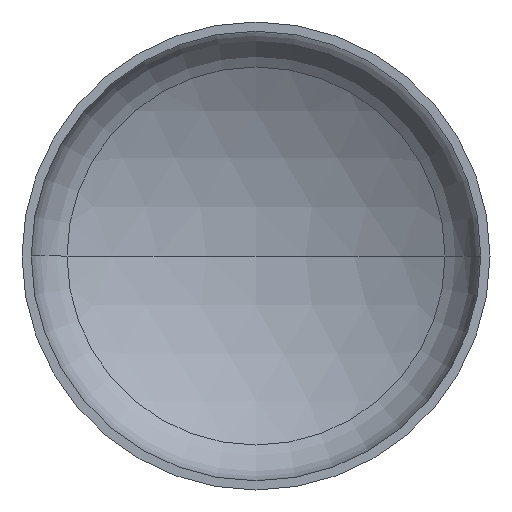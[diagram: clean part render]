
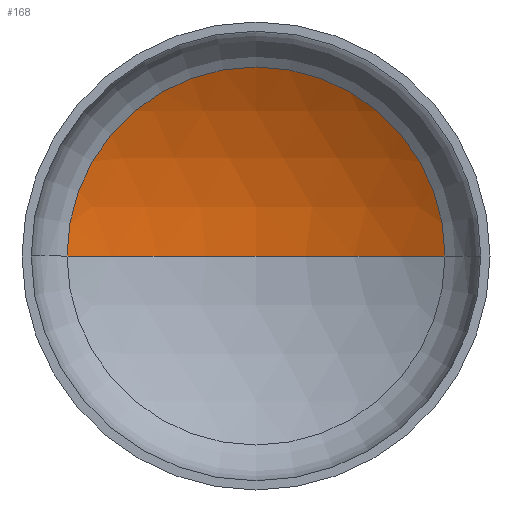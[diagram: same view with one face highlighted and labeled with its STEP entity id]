
A CAD part, front view. The second image highlights one B-rep face of the part: STEP entity #168.
In plain terms, the highlighted spherical face has radius 284 mm.
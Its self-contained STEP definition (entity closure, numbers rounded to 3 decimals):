
#12 = VERTEX_POINT ( 'NONE', #294 ) ;
#16 = CIRCLE ( 'NONE', #147, 284. ) ;
#28 = ORIENTED_EDGE ( 'NONE', *, *, #269, .F. ) ;
#69 = VERTEX_POINT ( 'NONE', #295 ) ;
#88 = ORIENTED_EDGE ( 'NONE', *, *, #258, .T. ) ;
#114 = VERTEX_POINT ( 'NONE', #220 ) ;
#127 = FACE_OUTER_BOUND ( 'NONE', #343, .T. ) ;
#133 = ORIENTED_EDGE ( 'NONE', *, *, #267, .T. ) ;
#138 = AXIS2_PLACEMENT_3D ( 'NONE', #157, #155, #153 ) ;
#147 = AXIS2_PLACEMENT_3D ( 'NONE', #291, #365, #241 ) ;
#152 = AXIS2_PLACEMENT_3D ( 'NONE', #188, #191, #206 ) ;
#153 = DIRECTION ( 'NONE',  ( 1., 0., 0. ) ) ;
#155 = DIRECTION ( 'NONE',  ( 0., 0., 1. ) ) ;
#157 = CARTESIAN_POINT ( 'NONE',  ( 0., -172.564, 0. ) ) ;
#168 = ADVANCED_FACE ( 'NONE', ( #127 ), #381, .F. ) ;
#188 = CARTESIAN_POINT ( 'NONE',  ( 0., 72.45, 0. ) ) ;
#191 = DIRECTION ( 'NONE',  ( 0., -1., 0. ) ) ;
#206 = DIRECTION ( 'NONE',  ( 1., 0., 0. ) ) ;
#207 = AXIS2_PLACEMENT_3D ( 'NONE', #320, #222, #317 ) ;
#220 = CARTESIAN_POINT ( 'NONE',  ( -143.612, 72.45, 0. ) ) ;
#222 = DIRECTION ( 'NONE',  ( 0., 0., -1. ) ) ;
#241 = DIRECTION ( 'NONE',  ( -1., 0., 0. ) ) ;
#258 = EDGE_CURVE ( 'NONE', #12, #114, #360, .T. ) ;
#267 = EDGE_CURVE ( 'NONE', #69, #12, #16, .T. ) ;
#269 = EDGE_CURVE ( 'NONE', #69, #114, #355, .T. ) ;
#291 = CARTESIAN_POINT ( 'NONE',  ( 0., -172.564, 0. ) ) ;
#294 = CARTESIAN_POINT ( 'NONE',  ( 143.612, 72.45, 0. ) ) ;
#295 = CARTESIAN_POINT ( 'NONE',  ( 0., 111.436, 0. ) ) ;
#317 = DIRECTION ( 'NONE',  ( -1., 0., 0. ) ) ;
#320 = CARTESIAN_POINT ( 'NONE',  ( 0., -172.564, 0. ) ) ;
#343 = EDGE_LOOP ( 'NONE', ( #28, #133, #88 ) ) ;
#355 = CIRCLE ( 'NONE', #138, 284. ) ;
#360 = CIRCLE ( 'NONE', #152, 143.612 ) ;
#365 = DIRECTION ( 'NONE',  ( 0., 0., -1. ) ) ;
#381 = SPHERICAL_SURFACE ( 'NONE', #207, 284. ) ;
